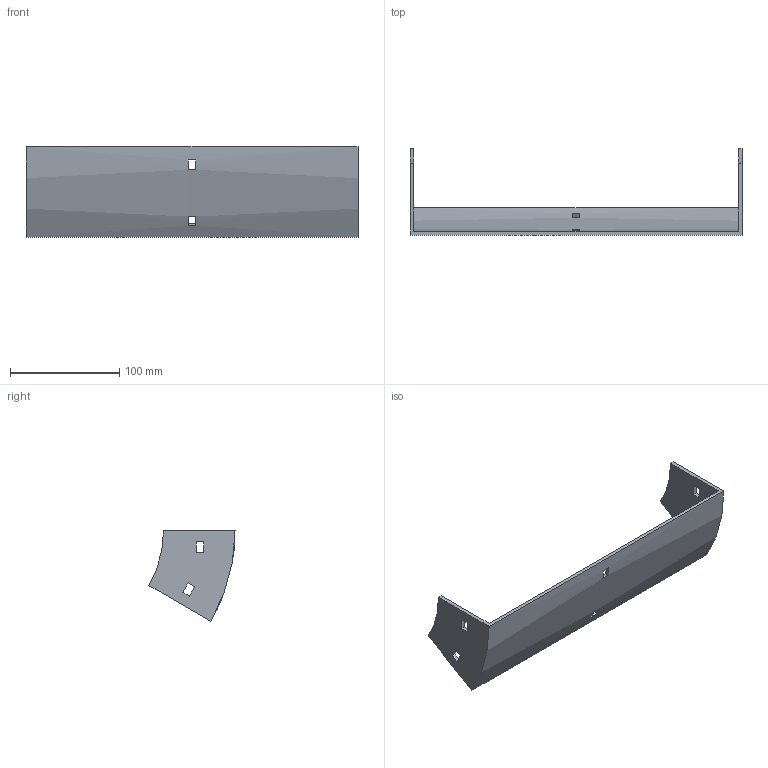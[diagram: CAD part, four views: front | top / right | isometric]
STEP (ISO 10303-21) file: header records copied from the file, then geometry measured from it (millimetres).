
FILE_DESCRIPTION (( 'STEP AP214' ), '1' );
FILE_NAME ('32B1H300.step', '2025-02-21T09:44:07', ( '' ), ( '' ), 'SwSTEP 2.0', 'SolidWorks 2023', '' );
FILE_SCHEMA (( 'AUTOMOTIVE_DESIGN' ));
Length unit declared in the file: millimetre
Products named in the file (1): 32B1H300
Bounding box: 304 x 78.9 x 82.75 mm (x, y, z)
Volume: 119603.7 mm3; surface area: 72408 mm2
Topology: 1 solids, 1 shells, 34 faces, 96 edges, 64 vertices
Faces by surface type: plane 30, cylinder 4
Entity records: 1143 total; most frequent: CARTESIAN_POINT 195, ORIENTED_EDGE 192, DIRECTION 182, EDGE_CURVE 96, VECTOR 80, LINE 80, VERTEX_POINT 64, AXIS2_PLACEMENT_3D 51
